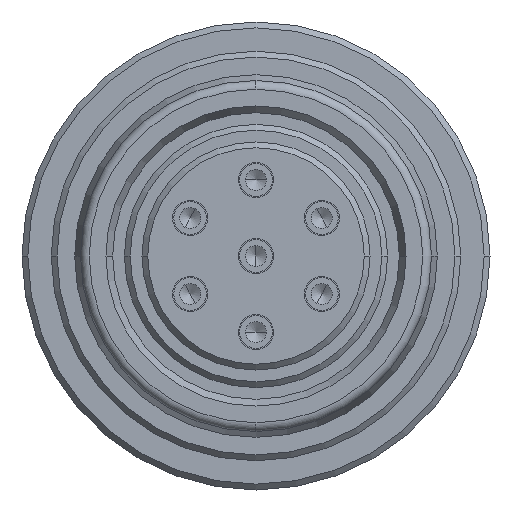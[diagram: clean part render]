
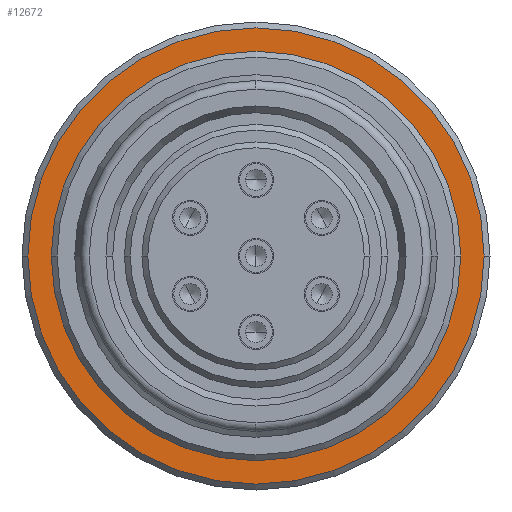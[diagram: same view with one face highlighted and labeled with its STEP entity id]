
A CAD part, left-side view. The second image highlights one B-rep face of the part: STEP entity #12672.
In plain terms, the highlighted planar face has unit normal (-1, 0, 0).
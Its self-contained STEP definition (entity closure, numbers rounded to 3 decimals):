
#878=CARTESIAN_POINT('',(67.,-19.5,0.0));
#879=VERTEX_POINT('',#878);
#886=CARTESIAN_POINT('',(67.,19.5,0.));
#887=VERTEX_POINT('',#886);
#888=CARTESIAN_POINT('',(67.,0.0,0.0));
#889=DIRECTION('',(1.0,0.0,0.0));
#890=DIRECTION('',(0.0,-1.0,0.0));
#891=AXIS2_PLACEMENT_3D('',#888,#889,#890);
#892=CIRCLE('',#891,19.5);
#893=EDGE_CURVE('',#879,#887,#892,.T.);
#912=CARTESIAN_POINT('',(67.,-17.5,0.0));
#913=VERTEX_POINT('',#912);
#929=CARTESIAN_POINT('',(67.,17.5,0.));
#930=VERTEX_POINT('',#929);
#937=CARTESIAN_POINT('',(67.,0.0,0.0));
#938=DIRECTION('',(1.0,0.0,0.0));
#939=DIRECTION('',(0.0,-1.0,0.0));
#940=AXIS2_PLACEMENT_3D('',#937,#938,#939);
#941=CIRCLE('',#940,17.5);
#942=EDGE_CURVE('',#913,#930,#941,.T.);
#12641=CARTESIAN_POINT('',(67.,0.0,0.0));
#12642=DIRECTION('',(1.0,0.0,0.0));
#12643=DIRECTION('',(0.0,-1.0,0.0));
#12644=AXIS2_PLACEMENT_3D('',#12641,#12642,#12643);
#12645=CIRCLE('',#12644,17.5);
#12646=EDGE_CURVE('',#930,#913,#12645,.T.);
#12653=CARTESIAN_POINT('',(67.,-18.5,0.0));
#12654=DIRECTION('',(-1.0,0.0,0.0));
#12655=DIRECTION('',(0.0,0.0,1.0));
#12656=AXIS2_PLACEMENT_3D('',#12653,#12654,#12655);
#12657=PLANE('',#12656);
#12658=ORIENTED_EDGE('',*,*,#893,.F.);
#12659=CARTESIAN_POINT('',(67.,0.0,0.0));
#12660=DIRECTION('',(1.0,0.0,0.0));
#12661=DIRECTION('',(0.0,-1.0,0.0));
#12662=AXIS2_PLACEMENT_3D('',#12659,#12660,#12661);
#12663=CIRCLE('',#12662,19.5);
#12664=EDGE_CURVE('',#887,#879,#12663,.T.);
#12665=ORIENTED_EDGE('',*,*,#12664,.F.);
#12666=EDGE_LOOP('',(#12658,#12665));
#12667=FACE_OUTER_BOUND('',#12666,.T.);
#12668=ORIENTED_EDGE('',*,*,#942,.T.);
#12669=ORIENTED_EDGE('',*,*,#12646,.T.);
#12670=EDGE_LOOP('',(#12668,#12669));
#12671=FACE_BOUND('',#12670,.T.);
#12672=ADVANCED_FACE('',(#12667,#12671),#12657,.T.);
